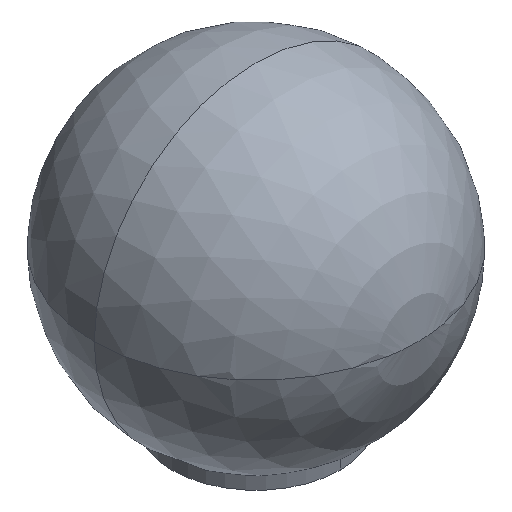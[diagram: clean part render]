
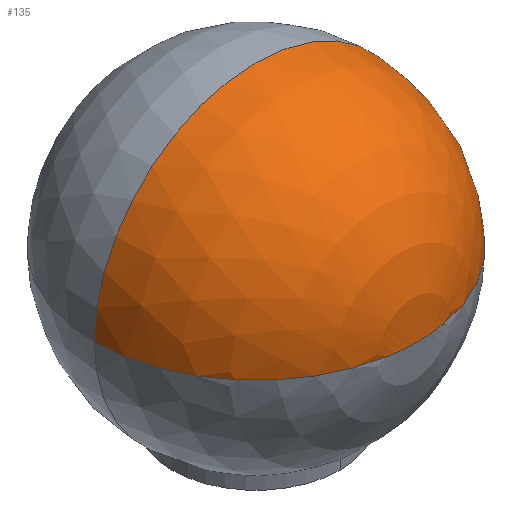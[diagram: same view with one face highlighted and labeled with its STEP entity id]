
A CAD part, isometric view. The second image highlights one B-rep face of the part: STEP entity #135.
In plain terms, the highlighted spherical face has radius 25 mm.
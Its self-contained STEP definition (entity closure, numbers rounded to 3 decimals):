
#6 = DIRECTION ( 'NONE',  ( 0., 0., 1. ) ) ;
#13 = FACE_OUTER_BOUND ( 'NONE', #178, .T. ) ;
#24 = CIRCLE ( 'NONE', #213, 24.999 ) ;
#29 = EDGE_CURVE ( 'NONE', #312, #313, #198, .T. ) ;
#35 = DIRECTION ( 'NONE',  ( 1., 0., 0. ) ) ;
#58 = AXIS2_PLACEMENT_3D ( 'NONE', #191, #274, #35 ) ;
#64 = CARTESIAN_POINT ( 'NONE',  ( 24.999, 0., 23.177 ) ) ;
#70 = DIRECTION ( 'NONE',  ( 0., 0., 1. ) ) ;
#78 = VERTEX_POINT ( 'NONE', #64 ) ;
#93 = SPHERICAL_SURFACE ( 'NONE', #216, 25. ) ;
#135 = ADVANCED_FACE ( 'NONE', ( #13 ), #93, .T. ) ;
#176 = DIRECTION ( 'NONE',  ( 0., -1., 0. ) ) ;
#178 = EDGE_LOOP ( 'NONE', ( #233, #234, #241 ) ) ;
#191 = CARTESIAN_POINT ( 'NONE',  ( 0., 0., 23. ) ) ;
#198 = CIRCLE ( 'NONE', #223, 25. ) ;
#206 = CARTESIAN_POINT ( 'NONE',  ( 0., 0., 23. ) ) ;
#213 = AXIS2_PLACEMENT_3D ( 'NONE', #272, #6, #215 ) ;
#215 = DIRECTION ( 'NONE',  ( 0., -1., 0. ) ) ;
#216 = AXIS2_PLACEMENT_3D ( 'NONE', #206, #176, #235 ) ;
#223 = AXIS2_PLACEMENT_3D ( 'NONE', #316, #230, #70 ) ;
#230 = DIRECTION ( 'NONE',  ( 0., 1., 0. ) ) ;
#233 = ORIENTED_EDGE ( 'NONE', *, *, #320, .T. ) ;
#234 = ORIENTED_EDGE ( 'NONE', *, *, #346, .T. ) ;
#235 = DIRECTION ( 'NONE',  ( -1., 0., 0. ) ) ;
#241 = ORIENTED_EDGE ( 'NONE', *, *, #29, .F. ) ;
#272 = CARTESIAN_POINT ( 'NONE',  ( 0., 0., 23.177 ) ) ;
#274 = DIRECTION ( 'NONE',  ( 0., -1., 0. ) ) ;
#303 = CARTESIAN_POINT ( 'NONE',  ( 0., 0., 48. ) ) ;
#312 = VERTEX_POINT ( 'NONE', #333 ) ;
#313 = VERTEX_POINT ( 'NONE', #303 ) ;
#316 = CARTESIAN_POINT ( 'NONE',  ( 0., 0., 23. ) ) ;
#320 = EDGE_CURVE ( 'NONE', #312, #78, #24, .T. ) ;
#328 = CIRCLE ( 'NONE', #58, 25. ) ;
#333 = CARTESIAN_POINT ( 'NONE',  ( -24.999, 0., 23.177 ) ) ;
#346 = EDGE_CURVE ( 'NONE', #78, #313, #328, .T. ) ;
